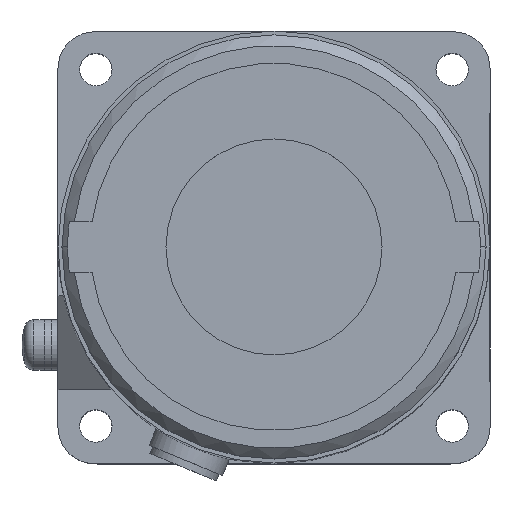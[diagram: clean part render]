
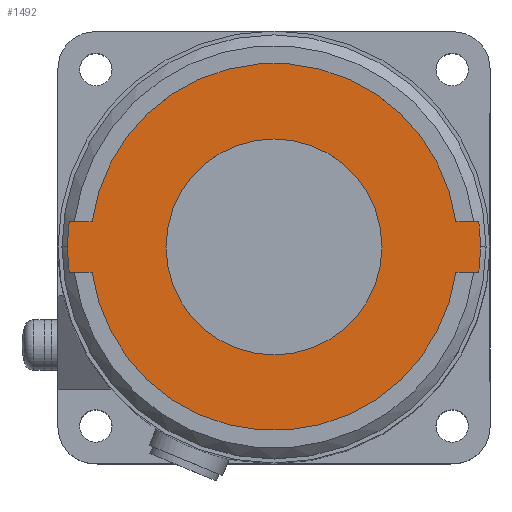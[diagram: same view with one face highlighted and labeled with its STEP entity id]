
A CAD part, top view. The second image highlights one B-rep face of the part: STEP entity #1492.
In plain terms, the highlighted planar face has unit normal (0, 0, 1).
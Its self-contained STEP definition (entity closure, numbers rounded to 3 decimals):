
#146 = DIRECTION ( 'NONE',  ( 0., 0., -1. ) ) ;
#161 = AXIS2_PLACEMENT_3D ( 'NONE', #3724, #1983, #2220 ) ;
#207 = CIRCLE ( 'NONE', #1589, 25.5 ) ;
#239 = FACE_OUTER_BOUND ( 'NONE', #3734, .T. ) ;
#269 = AXIS2_PLACEMENT_3D ( 'NONE', #2880, #1090, #1665 ) ;
#308 = LINE ( 'NONE', #2145, #3131 ) ;
#352 = ORIENTED_EDGE ( 'NONE', *, *, #2056, .F. ) ;
#381 = CARTESIAN_POINT ( 'NONE',  ( 15., 0., 74.3 ) ) ;
#429 = EDGE_CURVE ( 'NONE', #1200, #1239, #3692, .T. ) ;
#434 = CIRCLE ( 'NONE', #1926, 15. ) ;
#440 = ORIENTED_EDGE ( 'NONE', *, *, #1110, .F. ) ;
#459 = AXIS2_PLACEMENT_3D ( 'NONE', #2252, #3126, #2592 ) ;
#518 = VECTOR ( 'NONE', #1356, 1000. ) ;
#560 = LINE ( 'NONE', #3506, #518 ) ;
#627 = AXIS2_PLACEMENT_3D ( 'NONE', #2178, #146, #2828 ) ;
#715 = CARTESIAN_POINT ( 'NONE',  ( 0., 0., 74.3 ) ) ;
#737 = VERTEX_POINT ( 'NONE', #2290 ) ;
#811 = CARTESIAN_POINT ( 'NONE',  ( 29.795, 3.5, 74.3 ) ) ;
#817 = ORIENTED_EDGE ( 'NONE', *, *, #821, .T. ) ;
#821 = EDGE_CURVE ( 'NONE', #3690, #2134, #308, .T. ) ;
#826 = PLANE ( 'NONE',  #459 ) ;
#854 = CIRCLE ( 'NONE', #161, 15. ) ;
#904 = VERTEX_POINT ( 'NONE', #2411 ) ;
#916 = CARTESIAN_POINT ( 'NONE',  ( 0., 0., 74.3 ) ) ;
#976 = CARTESIAN_POINT ( 'NONE',  ( 28.435, -3.5, 74.3 ) ) ;
#1006 = VERTEX_POINT ( 'NONE', #976 ) ;
#1039 = ORIENTED_EDGE ( 'NONE', *, *, #1188, .T. ) ;
#1043 = CARTESIAN_POINT ( 'NONE',  ( -28.435, 3.5, 74.3 ) ) ;
#1076 = ORIENTED_EDGE ( 'NONE', *, *, #1169, .T. ) ;
#1088 = FACE_BOUND ( 'NONE', #1590, .T. ) ;
#1090 = DIRECTION ( 'NONE',  ( 0., 0., -1. ) ) ;
#1110 = EDGE_CURVE ( 'NONE', #1706, #1006, #1396, .T. ) ;
#1151 = EDGE_CURVE ( 'NONE', #904, #1706, #3635, .T. ) ;
#1169 = EDGE_CURVE ( 'NONE', #2846, #1006, #560, .T. ) ;
#1188 = EDGE_CURVE ( 'NONE', #737, #3057, #207, .T. ) ;
#1200 = VERTEX_POINT ( 'NONE', #3192 ) ;
#1230 = CARTESIAN_POINT ( 'NONE',  ( 0., 0., 74.3 ) ) ;
#1239 = VERTEX_POINT ( 'NONE', #1043 ) ;
#1291 = CARTESIAN_POINT ( 'NONE',  ( -25.259, 3.5, 74.3 ) ) ;
#1356 = DIRECTION ( 'NONE',  ( 1., 0., 0. ) ) ;
#1371 = ORIENTED_EDGE ( 'NONE', *, *, #2219, .F. ) ;
#1396 = CIRCLE ( 'NONE', #3572, 28.65 ) ;
#1438 = ORIENTED_EDGE ( 'NONE', *, *, #429, .F. ) ;
#1492 = ADVANCED_FACE ( 'NONE', ( #239, #1088 ), #826, .T. ) ;
#1545 = DIRECTION ( 'NONE',  ( 1., 0., 0. ) ) ;
#1589 = AXIS2_PLACEMENT_3D ( 'NONE', #715, #3487, #1904 ) ;
#1590 = EDGE_LOOP ( 'NONE', ( #352, #3855 ) ) ;
#1615 = DIRECTION ( 'NONE',  ( 0., 0., 1. ) ) ;
#1655 = DIRECTION ( 'NONE',  ( 1., 0., 0. ) ) ;
#1665 = DIRECTION ( 'NONE',  ( 1., 0., 0. ) ) ;
#1706 = VERTEX_POINT ( 'NONE', #3541 ) ;
#1726 = VECTOR ( 'NONE', #2215, 1000. ) ;
#1799 = CARTESIAN_POINT ( 'NONE',  ( -14.586, 3.5, 74.3 ) ) ;
#1800 = DIRECTION ( 'NONE',  ( 1., 0., 0. ) ) ;
#1820 = CARTESIAN_POINT ( 'NONE',  ( 0., 0., 74.3 ) ) ;
#1883 = AXIS2_PLACEMENT_3D ( 'NONE', #916, #2100, #1800 ) ;
#1904 = DIRECTION ( 'NONE',  ( 1., 0., 0. ) ) ;
#1926 = AXIS2_PLACEMENT_3D ( 'NONE', #1230, #3003, #1545 ) ;
#1983 = DIRECTION ( 'NONE',  ( 0., 0., 1. ) ) ;
#2049 = CARTESIAN_POINT ( 'NONE',  ( -15., 0., 74.3 ) ) ;
#2055 = LINE ( 'NONE', #1799, #2606 ) ;
#2056 = EDGE_CURVE ( 'NONE', #3661, #2937, #434, .T. ) ;
#2100 = DIRECTION ( 'NONE',  ( 0., 0., -1. ) ) ;
#2111 = DIRECTION ( 'NONE',  ( 1., 0., 0. ) ) ;
#2134 = VERTEX_POINT ( 'NONE', #3353 ) ;
#2145 = CARTESIAN_POINT ( 'NONE',  ( -14.586, -3.5, 74.3 ) ) ;
#2178 = CARTESIAN_POINT ( 'NONE',  ( 0., 0., 74.3 ) ) ;
#2215 = DIRECTION ( 'NONE',  ( -1., 0., 0. ) ) ;
#2219 = EDGE_CURVE ( 'NONE', #3690, #1200, #3243, .T. ) ;
#2220 = DIRECTION ( 'NONE',  ( 1., 0., 0. ) ) ;
#2252 = CARTESIAN_POINT ( 'NONE',  ( 0., 0., 74.3 ) ) ;
#2290 = CARTESIAN_POINT ( 'NONE',  ( 25.259, 3.5, 74.3 ) ) ;
#2295 = AXIS2_PLACEMENT_3D ( 'NONE', #2886, #1615, #1655 ) ;
#2383 = ORIENTED_EDGE ( 'NONE', *, *, #3221, .T. ) ;
#2411 = CARTESIAN_POINT ( 'NONE',  ( 28.435, 3.5, 74.3 ) ) ;
#2592 = DIRECTION ( 'NONE',  ( 1., 0., 0. ) ) ;
#2606 = VECTOR ( 'NONE', #3247, 1000. ) ;
#2746 = DIRECTION ( 'NONE',  ( 1., 0., 0. ) ) ;
#2788 = CIRCLE ( 'NONE', #2295, 25.5 ) ;
#2828 = DIRECTION ( 'NONE',  ( 1., 0., 0. ) ) ;
#2846 = VERTEX_POINT ( 'NONE', #2992 ) ;
#2880 = CARTESIAN_POINT ( 'NONE',  ( 0., 0., 74.3 ) ) ;
#2886 = CARTESIAN_POINT ( 'NONE',  ( 0., 0., 74.3 ) ) ;
#2937 = VERTEX_POINT ( 'NONE', #2049 ) ;
#2992 = CARTESIAN_POINT ( 'NONE',  ( 25.259, -3.5, 74.3 ) ) ;
#3003 = DIRECTION ( 'NONE',  ( 0., 0., 1. ) ) ;
#3057 = VERTEX_POINT ( 'NONE', #1291 ) ;
#3070 = DIRECTION ( 'NONE',  ( 0., 0., -1. ) ) ;
#3126 = DIRECTION ( 'NONE',  ( 0., 0., 1. ) ) ;
#3131 = VECTOR ( 'NONE', #2111, 1000. ) ;
#3159 = ORIENTED_EDGE ( 'NONE', *, *, #1151, .F. ) ;
#3192 = CARTESIAN_POINT ( 'NONE',  ( -28.65, 0., 74.3 ) ) ;
#3198 = EDGE_CURVE ( 'NONE', #2937, #3661, #854, .T. ) ;
#3221 = EDGE_CURVE ( 'NONE', #2134, #2846, #2788, .T. ) ;
#3243 = CIRCLE ( 'NONE', #627, 28.65 ) ;
#3247 = DIRECTION ( 'NONE',  ( -1., 0., 0. ) ) ;
#3293 = ORIENTED_EDGE ( 'NONE', *, *, #3796, .T. ) ;
#3341 = EDGE_CURVE ( 'NONE', #3057, #1239, #2055, .T. ) ;
#3353 = CARTESIAN_POINT ( 'NONE',  ( -25.259, -3.5, 74.3 ) ) ;
#3466 = LINE ( 'NONE', #811, #1726 ) ;
#3487 = DIRECTION ( 'NONE',  ( 0., 0., 1. ) ) ;
#3506 = CARTESIAN_POINT ( 'NONE',  ( 29.795, -3.5, 74.3 ) ) ;
#3530 = ORIENTED_EDGE ( 'NONE', *, *, #3341, .T. ) ;
#3541 = CARTESIAN_POINT ( 'NONE',  ( 28.65, 0., 74.3 ) ) ;
#3572 = AXIS2_PLACEMENT_3D ( 'NONE', #1820, #3070, #2746 ) ;
#3635 = CIRCLE ( 'NONE', #1883, 28.65 ) ;
#3639 = CARTESIAN_POINT ( 'NONE',  ( -28.435, -3.5, 74.3 ) ) ;
#3661 = VERTEX_POINT ( 'NONE', #381 ) ;
#3690 = VERTEX_POINT ( 'NONE', #3639 ) ;
#3692 = CIRCLE ( 'NONE', #269, 28.65 ) ;
#3724 = CARTESIAN_POINT ( 'NONE',  ( 0., 0., 74.3 ) ) ;
#3734 = EDGE_LOOP ( 'NONE', ( #2383, #1076, #440, #3159, #3293, #1039, #3530, #1438, #1371, #817 ) ) ;
#3796 = EDGE_CURVE ( 'NONE', #904, #737, #3466, .T. ) ;
#3855 = ORIENTED_EDGE ( 'NONE', *, *, #3198, .F. ) ;
